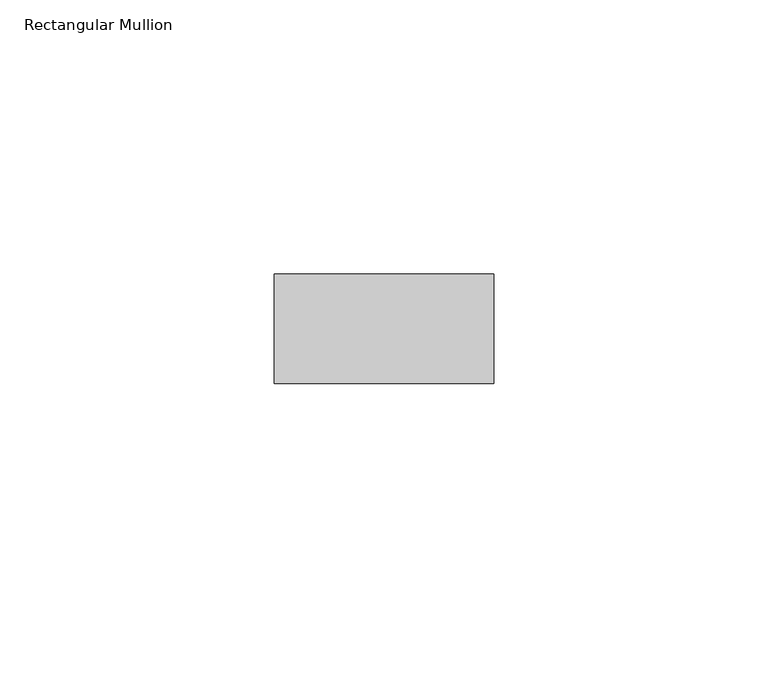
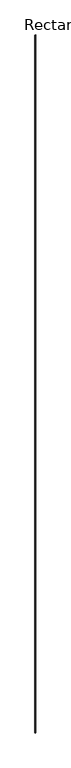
"""IFC4 building model written with IfcOpenShell, lengths in millimetres: member geometry, Rectangular Mullion : RIPA 4x2 cm."""

from ifc_helpers import new_model, si_unit, frame, origin, place, context, project, spatial, polyline, outline, extrude, source, transform, mapped, element, save


def rectangular_mullion_e4c4dc66(model_context):
    return source(origin(), model_context, "Body", "SweptSolid", [
        extrude(outline(polyline([(20.0, 0.0), (20.0, -20.0), (-20.0, -20.0), (-20.0, 0.0), (20.0, 0.0)])), frame((0.0, 0.0, -38568.9440379), z_axis=(0.0, 0.0, 1.0), x_axis=(1.0, 0.0, 0.0)), (0.0, 0.0, 1.0), 38568.9440379),
    ])


if __name__ == "__main__":
    model = new_model("IFC4")
    model_context = context("Model", 3, world=origin())
    ifc_project = project(units=[si_unit("LENGTHUNIT", "METRE", prefix="MILLI")], contexts=[model_context])
    site = spatial("IfcSite", under=ifc_project)
    building = spatial("IfcBuilding", under=site)
    placement = place(None, origin())
    rectangular_mullion_shape = rectangular_mullion_e4c4dc66(model_context)
    element("IfcMember", 1, ObjectType="Rectangular Mullion : RIPA 4x2 cm", at=placement, inside=building, context=model_context, shape_type="MappedRepresentation", body=[
        mapped(rectangular_mullion_shape, transform((0.0, 0.0, 0.0), x_axis=(1.0, 0.0, 0.0), y_axis=(0.0, 1.0, 0.0), z_axis=(0.0, 0.0, 1.0))),
    ])
    save(model, "model.ifc")
